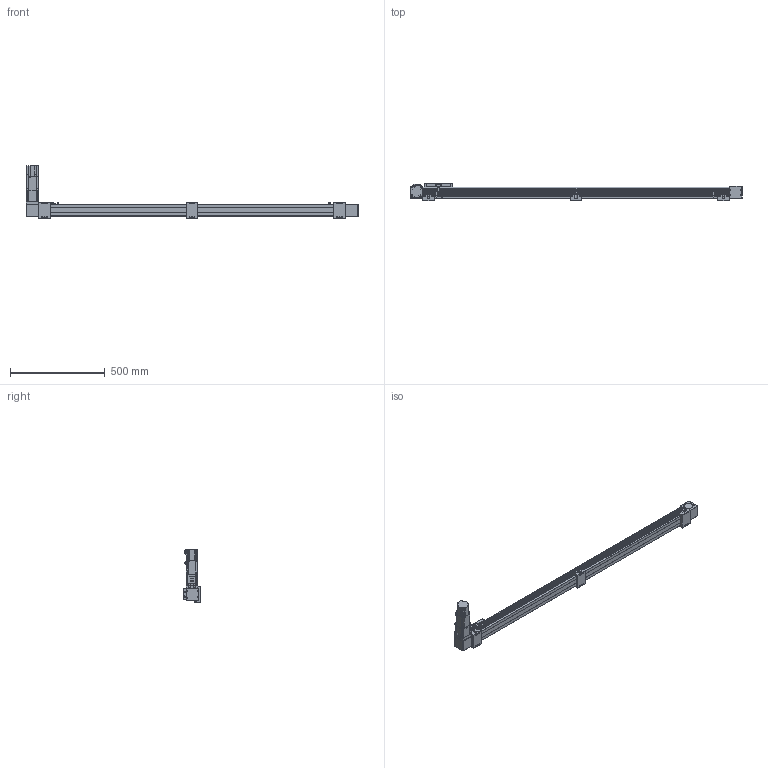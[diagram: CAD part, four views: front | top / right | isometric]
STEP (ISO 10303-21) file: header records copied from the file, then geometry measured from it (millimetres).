
FILE_DESCRIPTION(/* description */ ('STEP AP203'),/* implementation_level */ '2;1');
FILE_NAME(/* name */ 'SK60-P13-S1450-BL-T40-C1-N(0)',/* time_stamp */ '2023-04-06T03:37:07+02:00',/* author */ ('License CC BY-ND 4.0'),/* organization */ ('CADENAS'),/* preprocessor_version */ 'ST-DEVELOPER v19.3',/* originating_system */ 'PARTsolutions',/* authorisation */ ' ');
FILE_SCHEMA (('CONFIG_CONTROL_DESIGN'));
Length unit declared in the file: millimetre
Products named in the file (11): SK60-P13-S1450-BL-T40-C1-N(0); PSC140-sensor; SK60-S450_seat; SK60-S450-BL-C1_slider; SK60_body3; SK60_body6; SK60-BL_body2; T40-p1; SK60_body5; SK60_body4; SK60-S1450-BL-C1_body
Assembly tree (18 placements, depth 2):
  SK60-P13-S1450-BL-T40-C1-N(0)
    PSC140-sensor  x3
    SK60-S450_seat  x3
    SK60-S450-BL-C1_slider
    SK60_body3  x3
    SK60_body6  x2
    SK60-BL_body2  x2
    T40-p1
    SK60_body5
    SK60_body4
    SK60-S1450-BL-C1_body
Bounding box: 1750 x 90 x 278.2 mm (x, y, z)
Volume: 6520818.4 mm3; surface area: 836011 mm2
Topology: 18 solids, 22 shells, 878 faces, 2207 edges, 1458 vertices
Faces by surface type: plane 568, cylinder 282, cone 26, torus 2
Full cylindrical faces by diameter (mm): 2.8 x3, 3.3 x4, 4.2 x8, 4.5 x26, 4.6 x3, 4.917 x20, 5 x2, 5.478 x4, 5.5 x23, 6.5 x6, 8 x4, 8.5 x4, 9.988 x4, 10 x12, 13.556 x1, 14 x1, 14.586 x1, 19.692 x1, 38.432 x2, 43 x1, 44 x3, 47 x2, 50 x2
Entity records: 19379 total; most frequent: DIRECTION 3294, CARTESIAN_POINT 3290, ORIENTED_EDGE 3050, EDGE_CURVE 1525, AXIS2_PLACEMENT_3D 1101, LINE 1092, VECTOR 1092, VERTEX_POINT 1077
